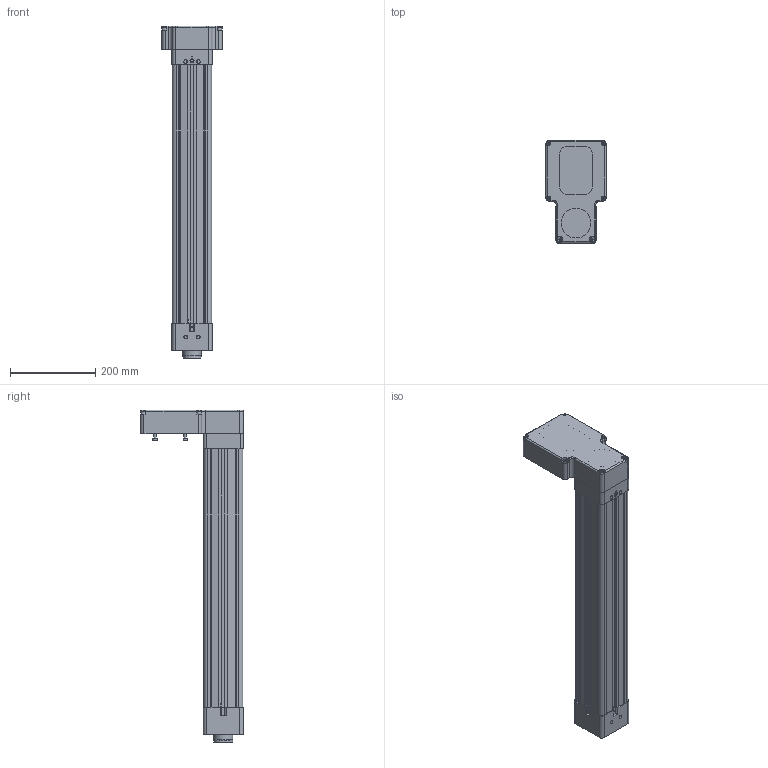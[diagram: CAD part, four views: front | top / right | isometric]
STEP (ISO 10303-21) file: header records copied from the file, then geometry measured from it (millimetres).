
FILE_DESCRIPTION (( 'STEP AP203' ), '1' );
FILE_NAME ('RSA50_BN02_SM500.000_RS-492504-1.step', '2025-07-10T07:23:48', ( '' ), ( '' ), 'SwSTEP 2.0', 'SolidWorks 2024', '' );
FILE_SCHEMA (( 'CONFIG_CONTROL_DESIGN' ));
Length unit declared in the file: inch
Products named in the file (4): RSA50_BN02_SM500.000_RS-492504-1; temp7_23241005_RSA50_BN02_SM500.000_RS-492504-1_YMH-RP; Base_RSA50_BN02_SM500.000_RS-492504-1; tempJoin6_21509082_RSA50_BN02_SM500.000_RS-492504-1
Assembly tree (3 placements, depth 2):
  RSA50_BN02_SM500.000_RS-492504-1
    temp7_23241005_RSA50_BN02_SM500.000_RS-492504-1_YMH-RP
    tempJoin6_21509082_RSA50_BN02_SM500.000_RS-492504-1
    Base_RSA50_BN02_SM500.000_RS-492504-1
Bounding box: 141.73 x 241.55 x 780.3 mm (x, y, z)
Volume: 5019133.7 mm3; surface area: 770622.3 mm2
Topology: 10 solids, 12 shells, 844 faces, 2096 edges, 1353 vertices
Faces by surface type: plane 529, cylinder 238, cone 69, bspline 6, torus 2
Full cylindrical faces by diameter (mm): 2.5 x2, 5 x4, 5.41 x1, 6 x8, 6.35 x1, 6.756 x1, 6.8 x4, 8.433 x2, 8.5 x4, 9.525 x1, 10 x8, 13 x6, 13.462 x4, 14.288 x2, 15.999 x1, 18.499 x1, 20.25 x2, 33.02 x1, 36.093 x2, 36.195 x2, 44.196 x1, 44.45 x2, 46.609 x1, 50.673 x1, 50.8 x2, 69.85 x1, 76.2 x2
Entity records: 25248 total; most frequent: CARTESIAN_POINT 5117, DIRECTION 4178, ORIENTED_EDGE 3860, EDGE_CURVE 1930, AXIS2_PLACEMENT_3D 1467, VERTEX_POINT 1302, VECTOR 1244, LINE 1244
